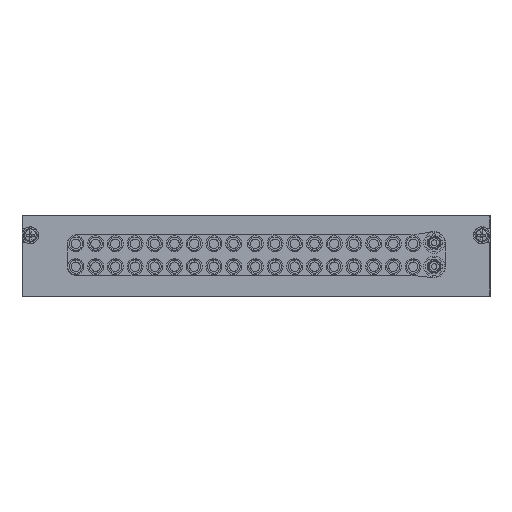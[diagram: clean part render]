
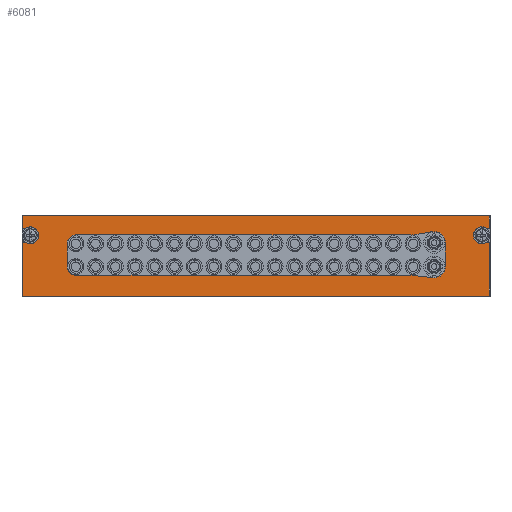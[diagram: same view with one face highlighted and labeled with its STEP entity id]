
A CAD part, top view. The second image highlights one B-rep face of the part: STEP entity #6081.
In plain terms, the highlighted planar face has unit normal (0, 0, 1).
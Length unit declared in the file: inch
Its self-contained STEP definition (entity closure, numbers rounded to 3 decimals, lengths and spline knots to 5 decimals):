
#475=DIRECTION('',(0.,1.,0.));
#476=VECTOR('',#475,0.76953);
#477=CARTESIAN_POINT('',(3.396,-0.58421,0.115));
#478=LINE('',#477,#476);
#479=DIRECTION('',(1.,0.,0.));
#480=VECTOR('',#479,6.79);
#481=CARTESIAN_POINT('',(-3.394,-0.58421,0.115));
#482=LINE('',#481,#480);
#483=DIRECTION('',(0.,-1.,0.));
#484=VECTOR('',#483,0.76953);
#485=CARTESIAN_POINT('',(-3.394,0.18532,0.115));
#486=LINE('',#485,#484);
#487=DIRECTION('',(0.,-1.,0.));
#488=VECTOR('',#487,0.16953);
#489=CARTESIAN_POINT('',(-3.394,0.58379,0.115));
#490=LINE('',#489,#488);
#491=DIRECTION('',(-1.,0.,0.));
#492=VECTOR('',#491,6.79);
#493=CARTESIAN_POINT('',(3.396,0.58379,0.115));
#494=LINE('',#493,#492);
#495=DIRECTION('',(0.,1.,0.));
#496=VECTOR('',#495,0.16953);
#497=CARTESIAN_POINT('',(3.396,0.41426,0.115));
#498=LINE('',#497,#496);
#499=CARTESIAN_POINT('',(-2.622,0.17879,0.115));
#500=DIRECTION('',(0.,0.,1.));
#501=DIRECTION('',(0.,1.,0.));
#502=AXIS2_PLACEMENT_3D('',#499,#500,#501);
#504=DIRECTION('',(0.,-1.,0.));
#505=VECTOR('',#504,0.334);
#506=CARTESIAN_POINT('',(-2.749,0.17879,0.115));
#507=LINE('',#506,#505);
#508=CARTESIAN_POINT('',(-2.622,-0.15521,0.115));
#509=DIRECTION('',(0.,0.,1.));
#510=DIRECTION('',(-1.,0.,0.));
#511=AXIS2_PLACEMENT_3D('',#508,#509,#510);
#513=DIRECTION('',(1.,0.,0.));
#514=VECTOR('',#513,4.87368);
#515=CARTESIAN_POINT('',(-2.622,-0.28221,0.115));
#516=LINE('',#515,#514);
#517=CARTESIAN_POINT('',(2.25168,-0.78221,0.115));
#518=DIRECTION('',(0.,0.,1.));
#519=DIRECTION('',(0.114,0.993,0.));
#520=AXIS2_PLACEMENT_3D('',#517,#518,#519);
#522=DIRECTION('',(0.993,-0.114,0.));
#523=VECTOR('',#522,0.26832);
#524=CARTESIAN_POINT('',(2.30881,-0.28548,0.115));
#525=LINE('',#524,#523);
#526=CARTESIAN_POINT('',(2.594,-0.15421,0.115));
#527=DIRECTION('',(0.,0.,1.));
#528=DIRECTION('',(-0.114,-0.993,0.));
#529=AXIS2_PLACEMENT_3D('',#526,#527,#528);
#531=DIRECTION('',(0.,1.,0.));
#532=VECTOR('',#531,0.348);
#533=CARTESIAN_POINT('',(2.757,-0.15421,0.115));
#534=LINE('',#533,#532);
#535=CARTESIAN_POINT('',(2.594,0.19379,0.115));
#536=DIRECTION('',(0.,0.,1.));
#537=DIRECTION('',(1.,0.,0.));
#538=AXIS2_PLACEMENT_3D('',#535,#536,#537);
#540=DIRECTION('',(-0.985,-0.171,0.));
#541=VECTOR('',#540,0.24127);
#542=CARTESIAN_POINT('',(2.56614,0.35439,0.115));
#543=LINE('',#542,#541);
#544=CARTESIAN_POINT('',(2.24295,0.80579,0.115));
#545=DIRECTION('',(0.,0.,1.));
#546=DIRECTION('',(0.,-1.,0.));
#547=AXIS2_PLACEMENT_3D('',#544,#545,#546);
#549=DIRECTION('',(-1.,0.,0.));
#550=VECTOR('',#549,4.86495);
#551=CARTESIAN_POINT('',(2.24295,0.30579,0.115));
#552=LINE('',#551,#550);
#557=CARTESIAN_POINT('',(3.376,0.18532,0.115));
#558=DIRECTION('',(0.,0.,1.));
#559=DIRECTION('',(1.,0.,0.));
#560=AXIS2_PLACEMENT_3D('',#557,#558,#559);
#3141=CARTESIAN_POINT('',(-3.374,0.18532,0.115));
#3142=DIRECTION('',(0.,0.,1.));
#3143=DIRECTION('',(0.614,0.789,0.));
#3144=AXIS2_PLACEMENT_3D('',#3141,#3142,#3143);
#3150=CARTESIAN_POINT('',(-3.285,0.29979,0.115));
#3151=DIRECTION('',(0.,0.,-1.));
#3152=DIRECTION('',(-0.614,0.789,0.));
#3153=AXIS2_PLACEMENT_3D('',#3150,#3151,#3152);
#3159=CARTESIAN_POINT('',(-3.374,0.41426,0.115));
#3160=DIRECTION('',(0.,0.,1.));
#3161=DIRECTION('',(-1.,0.,0.));
#3162=AXIS2_PLACEMENT_3D('',#3159,#3160,#3161);
#3180=CARTESIAN_POINT('',(3.376,0.41426,0.115));
#3181=DIRECTION('',(0.,0.,1.));
#3182=DIRECTION('',(-0.614,-0.789,0.));
#3183=AXIS2_PLACEMENT_3D('',#3180,#3181,#3182);
#3189=CARTESIAN_POINT('',(3.287,0.29979,0.115));
#3190=DIRECTION('',(0.,0.,-1.));
#3191=DIRECTION('',(0.614,-0.789,0.));
#3192=AXIS2_PLACEMENT_3D('',#3189,#3190,#3191);
#5253=CARTESIAN_POINT('',(3.396,0.58379,0.115));
#5254=CARTESIAN_POINT('',(-3.394,0.58379,0.115));
#5255=VERTEX_POINT('',#5253);
#5256=VERTEX_POINT('',#5254);
#5257=CARTESIAN_POINT('',(-3.394,-0.58421,0.115));
#5258=CARTESIAN_POINT('',(3.396,-0.58421,0.115));
#5259=VERTEX_POINT('',#5257);
#5260=VERTEX_POINT('',#5258);
#5261=CARTESIAN_POINT('',(3.396,0.18532,0.115));
#5262=CARTESIAN_POINT('',(3.36372,0.20111,0.115));
#5263=VERTEX_POINT('',#5261);
#5264=VERTEX_POINT('',#5262);
#5265=CARTESIAN_POINT('',(3.36372,0.39847,0.115));
#5266=CARTESIAN_POINT('',(3.396,0.41426,0.115));
#5267=VERTEX_POINT('',#5265);
#5268=VERTEX_POINT('',#5266);
#5269=CARTESIAN_POINT('',(-3.36172,0.20111,0.115));
#5270=CARTESIAN_POINT('',(-3.394,0.18532,0.115));
#5271=VERTEX_POINT('',#5269);
#5272=VERTEX_POINT('',#5270);
#5273=CARTESIAN_POINT('',(-3.394,0.41426,0.115));
#5274=CARTESIAN_POINT('',(-3.36172,0.39847,0.115));
#5275=VERTEX_POINT('',#5273);
#5276=VERTEX_POINT('',#5274);
#5277=CARTESIAN_POINT('',(-2.622,0.30579,0.115));
#5278=CARTESIAN_POINT('',(-2.749,0.17879,0.115));
#5279=VERTEX_POINT('',#5277);
#5280=VERTEX_POINT('',#5278);
#5281=CARTESIAN_POINT('',(2.24295,0.30579,0.115));
#5282=VERTEX_POINT('',#5281);
#5283=CARTESIAN_POINT('',(-2.622,-0.28221,0.115));
#5284=CARTESIAN_POINT('',(2.25168,-0.28221,0.115));
#5285=VERTEX_POINT('',#5283);
#5286=VERTEX_POINT('',#5284);
#5287=CARTESIAN_POINT('',(-2.749,-0.15521,0.115));
#5288=VERTEX_POINT('',#5287);
#5289=CARTESIAN_POINT('',(2.57537,-0.31614,0.115));
#5290=CARTESIAN_POINT('',(2.757,-0.15421,0.115));
#5291=VERTEX_POINT('',#5289);
#5292=VERTEX_POINT('',#5290);
#5293=CARTESIAN_POINT('',(2.757,0.19379,0.115));
#5294=CARTESIAN_POINT('',(2.56614,0.35439,0.115));
#5295=VERTEX_POINT('',#5293);
#5296=VERTEX_POINT('',#5294);
#5297=CARTESIAN_POINT('',(2.30881,-0.28548,0.115));
#5298=VERTEX_POINT('',#5297);
#5299=CARTESIAN_POINT('',(2.32841,0.31315,0.115));
#5300=VERTEX_POINT('',#5299);
#6034=CARTESIAN_POINT('',(3.396,-0.58421,0.115));
#6035=DIRECTION('',(0.,0.,1.));
#6036=DIRECTION('',(0.,1.,0.));
#6037=AXIS2_PLACEMENT_3D('',#6034,#6035,#6036);
#6038=PLANE('',#6037);
#6040=ORIENTED_EDGE('',*,*,#6039,.F.);
#6042=ORIENTED_EDGE('',*,*,#6041,.F.);
#6044=ORIENTED_EDGE('',*,*,#6043,.F.);
#6046=ORIENTED_EDGE('',*,*,#6045,.F.);
#6048=ORIENTED_EDGE('',*,*,#6047,.F.);
#6050=ORIENTED_EDGE('',*,*,#6049,.F.);
#6052=ORIENTED_EDGE('',*,*,#6051,.F.);
#6054=ORIENTED_EDGE('',*,*,#6053,.F.);
#6056=ORIENTED_EDGE('',*,*,#6055,.F.);
#6058=ORIENTED_EDGE('',*,*,#6057,.F.);
#6060=ORIENTED_EDGE('',*,*,#6059,.F.);
#6062=ORIENTED_EDGE('',*,*,#6061,.F.);
#6063=EDGE_LOOP('',(#6040,#6042,#6044,#6046,#6048,#6050,#6052,#6054,#6056,#6058,
#6060,#6062));
#6064=FACE_OUTER_BOUND('',#6063,.F.);
#6065=ORIENTED_EDGE('',*,*,#5916,.T.);
#6066=ORIENTED_EDGE('',*,*,#5931,.T.);
#6067=ORIENTED_EDGE('',*,*,#5945,.T.);
#6068=ORIENTED_EDGE('',*,*,#5959,.T.);
#6069=ORIENTED_EDGE('',*,*,#5973,.F.);
#6070=ORIENTED_EDGE('',*,*,#5987,.T.);
#6071=ORIENTED_EDGE('',*,*,#6001,.T.);
#6072=ORIENTED_EDGE('',*,*,#6015,.T.);
#6073=ORIENTED_EDGE('',*,*,#6028,.T.);
#6074=ORIENTED_EDGE('',*,*,#5642,.T.);
#6076=ORIENTED_EDGE('',*,*,#6075,.F.);
#6078=ORIENTED_EDGE('',*,*,#6077,.T.);
#6079=EDGE_LOOP('',(#6065,#6066,#6067,#6068,#6069,#6070,#6071,#6072,#6073,#6074,
#6076,#6078));
#6080=FACE_BOUND('',#6079,.F.);
#6081=ADVANCED_FACE('',(#6064,#6080),#6038,.T.);
#503=CIRCLE('',#502,0.127);
#512=CIRCLE('',#511,0.127);
#521=CIRCLE('',#520,0.5);
#530=CIRCLE('',#529,0.163);
#539=CIRCLE('',#538,0.163);
#548=CIRCLE('',#547,0.5);
#561=CIRCLE('',#560,0.02);
#3145=CIRCLE('',#3144,0.02);
#3154=CIRCLE('',#3153,0.125);
#3163=CIRCLE('',#3162,0.02);
#3184=CIRCLE('',#3183,0.02);
#3193=CIRCLE('',#3192,0.125);
#5642=EDGE_CURVE('',#5296,#5300,#543,.T.);
#5916=EDGE_CURVE('',#5279,#5280,#503,.T.);
#5931=EDGE_CURVE('',#5280,#5288,#507,.T.);
#5945=EDGE_CURVE('',#5288,#5285,#512,.T.);
#5959=EDGE_CURVE('',#5285,#5286,#516,.T.);
#5973=EDGE_CURVE('',#5298,#5286,#521,.T.);
#5987=EDGE_CURVE('',#5298,#5291,#525,.T.);
#6001=EDGE_CURVE('',#5291,#5292,#530,.T.);
#6015=EDGE_CURVE('',#5292,#5295,#534,.T.);
#6028=EDGE_CURVE('',#5295,#5296,#539,.T.);
#6039=EDGE_CURVE('',#5263,#5264,#561,.T.);
#6041=EDGE_CURVE('',#5260,#5263,#478,.T.);
#6043=EDGE_CURVE('',#5259,#5260,#482,.T.);
#6045=EDGE_CURVE('',#5272,#5259,#486,.T.);
#6047=EDGE_CURVE('',#5271,#5272,#3145,.T.);
#6049=EDGE_CURVE('',#5276,#5271,#3154,.T.);
#6051=EDGE_CURVE('',#5275,#5276,#3163,.T.);
#6053=EDGE_CURVE('',#5256,#5275,#490,.T.);
#6055=EDGE_CURVE('',#5255,#5256,#494,.T.);
#6057=EDGE_CURVE('',#5268,#5255,#498,.T.);
#6059=EDGE_CURVE('',#5267,#5268,#3184,.T.);
#6061=EDGE_CURVE('',#5264,#5267,#3193,.T.);
#6075=EDGE_CURVE('',#5282,#5300,#548,.T.);
#6077=EDGE_CURVE('',#5282,#5279,#552,.T.);
